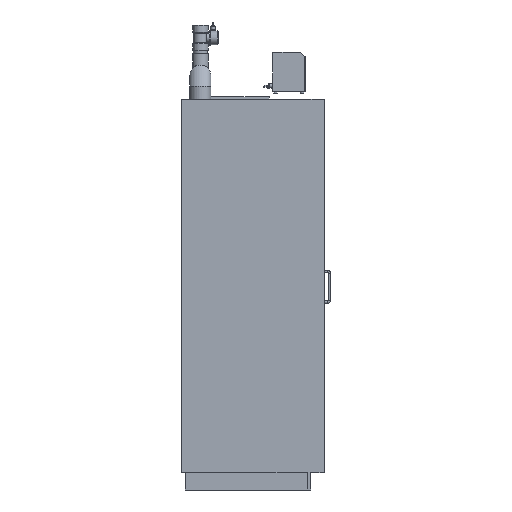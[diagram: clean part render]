
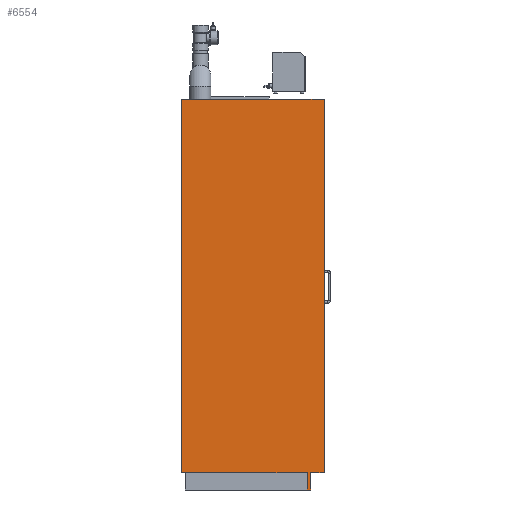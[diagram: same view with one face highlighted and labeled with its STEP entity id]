
A CAD part, left-side view. The second image highlights one B-rep face of the part: STEP entity #6554.
In plain terms, the highlighted planar face has unit normal (-1, 0, 0).
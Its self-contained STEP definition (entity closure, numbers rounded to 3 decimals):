
#1317=ORIENTED_EDGE('',*,*,#1870,.T.);
#1318=ORIENTED_EDGE('',*,*,#2069,.T.);
#1319=ORIENTED_EDGE('',*,*,#2070,.F.);
#1320=ORIENTED_EDGE('',*,*,#2071,.F.);
#1321=ORIENTED_EDGE('',*,*,#1900,.F.);
#1322=ORIENTED_EDGE('',*,*,#1869,.F.);
#1323=ORIENTED_EDGE('',*,*,#1865,.T.);
#1324=ORIENTED_EDGE('',*,*,#1895,.T.);
#1325=ORIENTED_EDGE('',*,*,#1904,.F.);
#1326=ORIENTED_EDGE('',*,*,#2072,.F.);
#1327=ORIENTED_EDGE('',*,*,#2073,.F.);
#1328=ORIENTED_EDGE('',*,*,#2057,.F.);
#1865=EDGE_CURVE('',#2385,#2384,#2733,.T.);
#1869=EDGE_CURVE('',#2385,#2386,#2737,.T.);
#1870=EDGE_CURVE('',#2387,#2388,#2738,.T.);
#1895=EDGE_CURVE('',#2384,#2407,#2763,.T.);
#1900=EDGE_CURVE('',#2386,#2411,#2768,.T.);
#1904=EDGE_CURVE('',#2412,#2407,#2772,.T.);
#2057=EDGE_CURVE('',#2387,#2497,#2895,.T.);
#2069=EDGE_CURVE('',#2388,#2503,#2907,.T.);
#2070=EDGE_CURVE('',#2504,#2503,#2908,.T.);
#2071=EDGE_CURVE('',#2411,#2504,#2909,.T.);
#2072=EDGE_CURVE('',#2505,#2412,#2910,.T.);
#2073=EDGE_CURVE('',#2497,#2505,#2911,.T.);
#2384=VERTEX_POINT('',#9302);
#2385=VERTEX_POINT('',#9304);
#2386=VERTEX_POINT('',#9309);
#2387=VERTEX_POINT('',#9313);
#2388=VERTEX_POINT('',#9314);
#2407=VERTEX_POINT('',#9363);
#2411=VERTEX_POINT('',#9374);
#2412=VERTEX_POINT('',#9381);
#2497=VERTEX_POINT('',#9689);
#2503=VERTEX_POINT('',#9714);
#2504=VERTEX_POINT('',#9718);
#2505=VERTEX_POINT('',#9721);
#2733=LINE('',#9303,#3142);
#2737=LINE('',#9310,#3146);
#2738=LINE('',#9312,#3147);
#2763=LINE('',#9365,#3172);
#2768=LINE('',#9373,#3177);
#2772=LINE('',#9380,#3181);
#2895=LINE('',#9691,#3304);
#2907=LINE('',#9715,#3316);
#2908=LINE('',#9717,#3317);
#2909=LINE('',#9719,#3318);
#2910=LINE('',#9720,#3319);
#2911=LINE('',#9722,#3320);
#3142=VECTOR('',#7863,1000.);
#3146=VECTOR('',#7869,1000.);
#3147=VECTOR('',#7872,1000.);
#3172=VECTOR('',#7909,1000.);
#3177=VECTOR('',#7916,1000.);
#3181=VECTOR('',#7924,1000.);
#3304=VECTOR('',#8251,1000.);
#3316=VECTOR('',#8275,1000.);
#3317=VECTOR('',#8278,1000.);
#3318=VECTOR('',#8279,1000.);
#3319=VECTOR('',#8280,1000.);
#3320=VECTOR('',#8281,1000.);
#3676=EDGE_LOOP('',(#1317,#1318,#1319,#1320,#1321,#1322,#1323,#1324,#1325,
#1326,#1327,#1328));
#4063=FACE_BOUND('',#3676,.T.);
#4279=PLANE('',#7010);
#6554=ADVANCED_FACE('',(#4063),#4279,.F.);
#7010=AXIS2_PLACEMENT_3D('',#9716,#8276,#8277);
#7863=DIRECTION('',(0.,-1.,0.));
#7869=DIRECTION('',(0.,0.,1.));
#7872=DIRECTION('',(0.,1.,0.));
#7909=DIRECTION('',(0.,0.,1.));
#7916=DIRECTION('',(0.,1.,0.));
#7924=DIRECTION('',(0.,1.,0.));
#8251=DIRECTION('',(0.,0.,1.));
#8275=DIRECTION('',(0.,0.,1.));
#8276=DIRECTION('',(1.,0.,0.));
#8277=DIRECTION('',(0.,0.,-1.));
#8278=DIRECTION('',(0.,-1.,0.));
#8279=DIRECTION('',(0.,0.,1.));
#8280=DIRECTION('',(0.,0.,-1.));
#8281=DIRECTION('',(0.,-1.,0.));
#9302=CARTESIAN_POINT('',(0.,69.,0.));
#9303=CARTESIAN_POINT('',(0.,69.,0.));
#9304=CARTESIAN_POINT('',(0.,88.,0.));
#9309=CARTESIAN_POINT('',(0.,88.,89.));
#9310=CARTESIAN_POINT('',(0.,88.,0.));
#9312=CARTESIAN_POINT('',(0.,0.,2043.5));
#9313=CARTESIAN_POINT('',(0.,699.,2043.5));
#9314=CARTESIAN_POINT('',(0.,718.,2043.5));
#9363=CARTESIAN_POINT('',(0.,69.,89.));
#9365=CARTESIAN_POINT('',(0.,69.,0.));
#9373=CARTESIAN_POINT('',(0.,0.,89.));
#9374=CARTESIAN_POINT('',(0.,747.,89.));
#9380=CARTESIAN_POINT('',(0.,0.,89.));
#9381=CARTESIAN_POINT('',(0.,0.,89.));
#9689=CARTESIAN_POINT('',(0.,699.,2045.));
#9691=CARTESIAN_POINT('',(0.,699.,2043.5));
#9714=CARTESIAN_POINT('',(0.,718.,2045.));
#9715=CARTESIAN_POINT('',(0.,718.,89.));
#9716=CARTESIAN_POINT('',(0.,0.,89.));
#9717=CARTESIAN_POINT('',(0.,612.,2045.));
#9718=CARTESIAN_POINT('',(0.,747.,2045.));
#9719=CARTESIAN_POINT('',(0.,747.,89.));
#9720=CARTESIAN_POINT('',(0.,0.,2045.));
#9721=CARTESIAN_POINT('',(0.,0.,2045.));
#9722=CARTESIAN_POINT('',(0.,612.,2045.));
